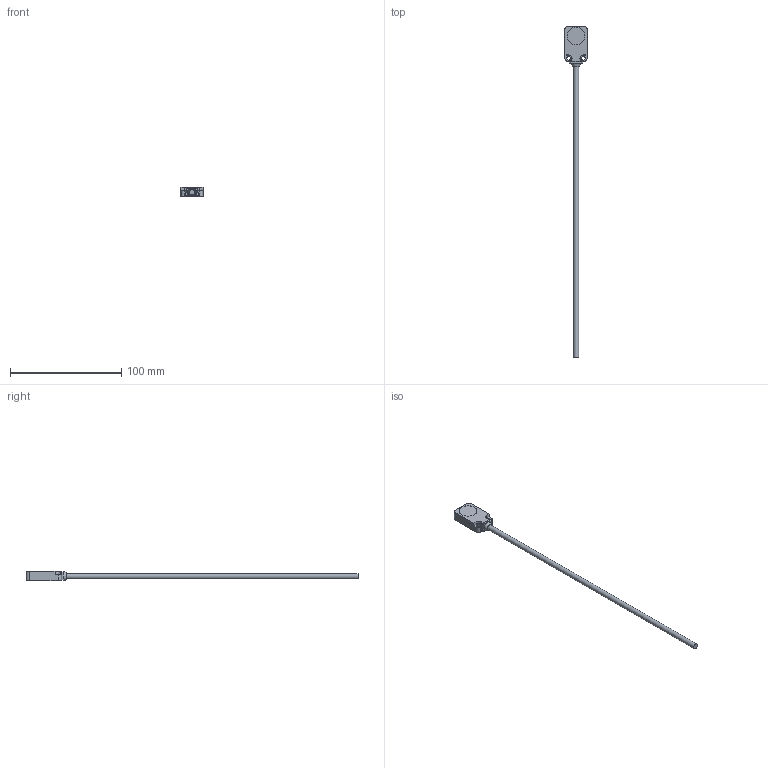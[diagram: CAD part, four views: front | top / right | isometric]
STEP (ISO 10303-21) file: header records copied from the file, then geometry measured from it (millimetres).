
FILE_DESCRIPTION( ( 'STEP AP203' ), '1' );
FILE_NAME( 'p:/temp/worker_211/temp/exporttempdir_472_64_8DYWm/format_1/IQ2006.stp', '2019-12-02T10:49:14', ( '' ), ( '' ), ' ', 'PARTsolutions', ' ' );
FILE_SCHEMA( ( 'CONFIG_CONTROL_DESIGN' ) );
Length unit declared in the file: millimetre
Products named in the file (1): _IQ2006
Bounding box: 20 x 298.49 x 8.15 mm (x, y, z)
Volume: 9923.9 mm3; surface area: 6359.1 mm2
Topology: 1 solids, 1 shells, 69 faces, 190 edges, 125 vertices
Faces by surface type: plane 39, cone 21, cylinder 9
Full cylindrical faces by diameter (mm): 3.39 x2, 4.9 x1, 16.1 x1
Entity records: 2376 total; most frequent: CARTESIAN_POINT 576, ORIENTED_EDGE 366, DIRECTION 362, EDGE_CURVE 183, AXIS2_PLACEMENT_3D 125, VERTEX_POINT 123, LINE 112, VECTOR 112
